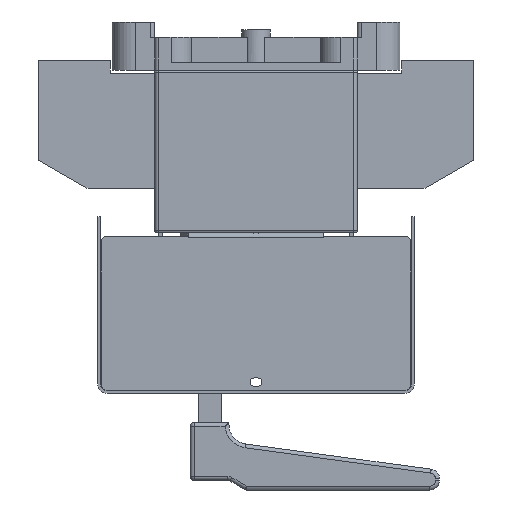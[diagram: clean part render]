
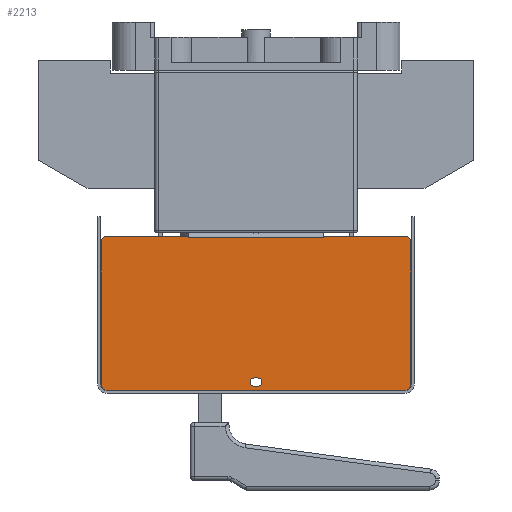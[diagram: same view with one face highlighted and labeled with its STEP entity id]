
A CAD part, left-side view. The second image highlights one B-rep face of the part: STEP entity #2213.
In plain terms, the highlighted planar face has unit normal (-1, 0, 0).
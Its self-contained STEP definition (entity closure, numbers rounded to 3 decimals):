
#2213=ADVANCED_FACE('',(#9100,#9101),#3270,.T.);
#3270=PLANE('',#24907);
#5008=LINE('',#36180,#7629);
#5018=LINE('',#36205,#7639);
#5020=LINE('',#36209,#7641);
#5022=LINE('',#36213,#7643);
#5025=LINE('',#36219,#7646);
#5035=LINE('',#36254,#7656);
#5036=LINE('',#36258,#7657);
#5037=LINE('',#36259,#7658);
#5038=LINE('',#36263,#7659);
#5039=LINE('',#36267,#7660);
#5040=LINE('',#36271,#7661);
#5041=LINE('',#36275,#7662);
#7629=VECTOR('',#29173,1.);
#7639=VECTOR('',#29199,1.);
#7641=VECTOR('',#29203,1.);
#7643=VECTOR('',#29207,1.);
#7646=VECTOR('',#29212,1.);
#7656=VECTOR('',#29240,1.);
#7657=VECTOR('',#29243,1.);
#7658=VECTOR('',#29244,1.);
#7659=VECTOR('',#29247,1.);
#7660=VECTOR('',#29250,1.);
#7661=VECTOR('',#29253,1.);
#7662=VECTOR('',#29256,1.);
#9100=FACE_BOUND('',#9948,.T.);
#9101=FACE_BOUND('',#9949,.T.);
#9948=EDGE_LOOP('',(#14030,#14031,#14032,#14033));
#9949=EDGE_LOOP('',(#14034,#14035,#14036,#14037,#14038,#14039,#14040,#14041,
#14042,#14043,#14044,#14045,#14046,#14047));
#14030=ORIENTED_EDGE('',*,*,#21445,.T.);
#14031=ORIENTED_EDGE('',*,*,#21446,.T.);
#14032=ORIENTED_EDGE('',*,*,#21447,.T.);
#14033=ORIENTED_EDGE('',*,*,#21448,.T.);
#14034=ORIENTED_EDGE('',*,*,#21424,.F.);
#14035=ORIENTED_EDGE('',*,*,#21422,.T.);
#14036=ORIENTED_EDGE('',*,*,#21409,.T.);
#14037=ORIENTED_EDGE('',*,*,#21426,.T.);
#14038=ORIENTED_EDGE('',*,*,#21429,.F.);
#14039=ORIENTED_EDGE('',*,*,#21449,.T.);
#14040=ORIENTED_EDGE('',*,*,#21450,.T.);
#14041=ORIENTED_EDGE('',*,*,#21451,.T.);
#14042=ORIENTED_EDGE('',*,*,#21452,.T.);
#14043=ORIENTED_EDGE('',*,*,#21453,.T.);
#14044=ORIENTED_EDGE('',*,*,#21454,.T.);
#14045=ORIENTED_EDGE('',*,*,#21455,.T.);
#14046=ORIENTED_EDGE('',*,*,#21456,.T.);
#14047=ORIENTED_EDGE('',*,*,#21457,.T.);
#18621=VERTEX_POINT('',#36179);
#18622=VERTEX_POINT('',#36181);
#18627=VERTEX_POINT('',#36202);
#18630=VERTEX_POINT('',#36210);
#18631=VERTEX_POINT('',#36214);
#18633=VERTEX_POINT('',#36220);
#18647=VERTEX_POINT('',#36252);
#18648=VERTEX_POINT('',#36253);
#18649=VERTEX_POINT('',#36255);
#18650=VERTEX_POINT('',#36257);
#18651=VERTEX_POINT('',#36260);
#18652=VERTEX_POINT('',#36262);
#18653=VERTEX_POINT('',#36264);
#18654=VERTEX_POINT('',#36266);
#18655=VERTEX_POINT('',#36268);
#18656=VERTEX_POINT('',#36270);
#18657=VERTEX_POINT('',#36272);
#18658=VERTEX_POINT('',#36274);
#21409=EDGE_CURVE('',#18622,#18621,#5008,.T.);
#21422=EDGE_CURVE('',#18627,#18622,#5018,.T.);
#21424=EDGE_CURVE('',#18627,#18630,#5020,.T.);
#21426=EDGE_CURVE('',#18621,#18631,#5022,.T.);
#21429=EDGE_CURVE('',#18633,#18631,#5025,.T.);
#21445=EDGE_CURVE('',#18647,#18648,#23492,.T.);
#21446=EDGE_CURVE('',#18648,#18649,#5035,.T.);
#21447=EDGE_CURVE('',#18649,#18650,#23493,.T.);
#21448=EDGE_CURVE('',#18650,#18647,#5036,.T.);
#21449=EDGE_CURVE('',#18633,#18651,#5037,.T.);
#21450=EDGE_CURVE('',#18651,#18652,#23494,.T.);
#21451=EDGE_CURVE('',#18652,#18653,#5038,.T.);
#21452=EDGE_CURVE('',#18653,#18654,#23495,.T.);
#21453=EDGE_CURVE('',#18654,#18655,#5039,.T.);
#21454=EDGE_CURVE('',#18655,#18656,#23496,.T.);
#21455=EDGE_CURVE('',#18656,#18657,#5040,.T.);
#21456=EDGE_CURVE('',#18657,#18658,#23497,.T.);
#21457=EDGE_CURVE('',#18658,#18630,#5041,.T.);
#23492=CIRCLE('',#24901,2.1);
#23493=CIRCLE('',#24902,2.1);
#23494=CIRCLE('',#24903,3.);
#23495=CIRCLE('',#24904,3.);
#23496=CIRCLE('',#24905,3.);
#23497=CIRCLE('',#24906,3.);
#24901=AXIS2_PLACEMENT_3D('',#36251,#29238,#29239);
#24902=AXIS2_PLACEMENT_3D('',#36256,#29241,#29242);
#24903=AXIS2_PLACEMENT_3D('',#36261,#29245,#29246);
#24904=AXIS2_PLACEMENT_3D('',#36265,#29248,#29249);
#24905=AXIS2_PLACEMENT_3D('',#36269,#29251,#29252);
#24906=AXIS2_PLACEMENT_3D('',#36273,#29254,#29255);
#24907=AXIS2_PLACEMENT_3D('',#36276,#29257,#29258);
#29173=DIRECTION('',(0.,1.,0.));
#29199=DIRECTION('',(0.,1.,0.));
#29203=DIRECTION('',(0.,0.,1.));
#29207=DIRECTION('',(0.,1.,0.));
#29212=DIRECTION('',(0.,0.,-1.));
#29238=DIRECTION('',(1.,0.,0.));
#29239=DIRECTION('',(0.,1.,0.));
#29240=DIRECTION('',(0.,-1.,0.));
#29241=DIRECTION('',(1.,0.,0.));
#29242=DIRECTION('',(0.,1.,0.));
#29243=DIRECTION('',(0.,1.,0.));
#29244=DIRECTION('',(0.,1.,0.));
#29245=DIRECTION('',(-1.,0.,0.));
#29246=DIRECTION('',(0.,1.,0.));
#29247=DIRECTION('',(0.,0.,-1.));
#29248=DIRECTION('',(-1.,0.,0.));
#29249=DIRECTION('',(0.,1.,0.));
#29250=DIRECTION('',(0.,-1.,0.));
#29251=DIRECTION('',(-1.,0.,0.));
#29252=DIRECTION('',(0.,1.,0.));
#29253=DIRECTION('',(0.,0.,1.));
#29254=DIRECTION('',(-1.,0.,0.));
#29255=DIRECTION('',(0.,1.,0.));
#29256=DIRECTION('',(0.,1.,0.));
#29257=DIRECTION('',(-1.,0.,0.));
#29258=DIRECTION('',(0.,-1.,0.));
#36179=CARTESIAN_POINT('',(-189.3,35.,-86.8));
#36180=CARTESIAN_POINT('',(-189.3,50.5,-86.8));
#36181=CARTESIAN_POINT('',(-189.3,-35.,-86.8));
#36202=CARTESIAN_POINT('',(-189.3,-35.002,-86.8));
#36205=CARTESIAN_POINT('',(-189.3,77.,-86.8));
#36209=CARTESIAN_POINT('',(-189.3,-35.002,-162.8));
#36210=CARTESIAN_POINT('',(-189.3,-35.002,-85.8));
#36213=CARTESIAN_POINT('',(-189.3,77.,-86.8));
#36214=CARTESIAN_POINT('',(-189.3,35.002,-86.8));
#36219=CARTESIAN_POINT('',(-189.3,35.002,-162.8));
#36220=CARTESIAN_POINT('',(-189.3,35.002,-85.8));
#36251=CARTESIAN_POINT('',(-189.3,1.,-161.4));
#36252=CARTESIAN_POINT('',(-189.3,1.,-163.5));
#36253=CARTESIAN_POINT('',(-189.3,1.,-159.3));
#36254=CARTESIAN_POINT('',(-189.3,1.,-159.3));
#36255=CARTESIAN_POINT('',(-189.3,-1.,-159.3));
#36256=CARTESIAN_POINT('',(-189.3,-1.,-161.4));
#36257=CARTESIAN_POINT('',(-189.3,-1.,-163.5));
#36258=CARTESIAN_POINT('',(-189.3,-1.,-163.5));
#36259=CARTESIAN_POINT('',(-189.3,-77.,-85.8));
#36260=CARTESIAN_POINT('',(-189.3,77.,-85.8));
#36261=CARTESIAN_POINT('',(-189.3,77.,-88.8));
#36262=CARTESIAN_POINT('',(-189.3,80.,-88.8));
#36263=CARTESIAN_POINT('',(-189.3,80.,-88.8));
#36264=CARTESIAN_POINT('',(-189.3,80.,-162.8));
#36265=CARTESIAN_POINT('',(-189.3,77.,-162.8));
#36266=CARTESIAN_POINT('',(-189.3,77.,-165.8));
#36267=CARTESIAN_POINT('',(-189.3,77.,-165.8));
#36268=CARTESIAN_POINT('',(-189.3,-77.,-165.8));
#36269=CARTESIAN_POINT('',(-189.3,-77.,-162.8));
#36270=CARTESIAN_POINT('',(-189.3,-80.,-162.8));
#36271=CARTESIAN_POINT('',(-189.3,-80.,-162.8));
#36272=CARTESIAN_POINT('',(-189.3,-80.,-88.8));
#36273=CARTESIAN_POINT('',(-189.3,-77.,-88.8));
#36274=CARTESIAN_POINT('',(-189.3,-77.,-85.8));
#36275=CARTESIAN_POINT('',(-189.3,-77.,-85.8));
#36276=CARTESIAN_POINT('',(-189.3,77.,-162.8));
